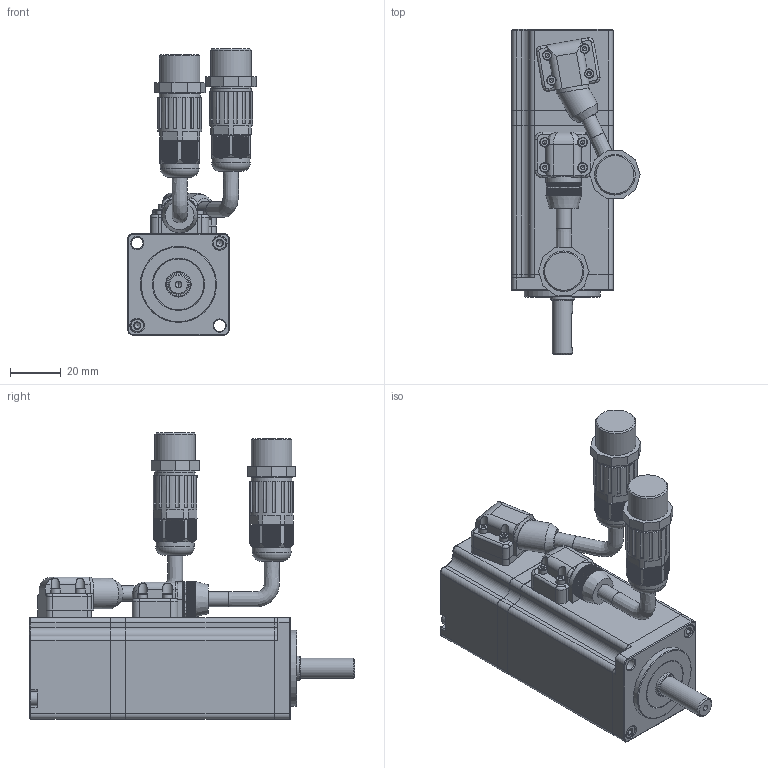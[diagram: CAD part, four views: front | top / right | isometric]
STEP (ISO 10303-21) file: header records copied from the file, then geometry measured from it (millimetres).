
FILE_DESCRIPTION(/* description */ (''),/* implementation_level */ '2;1');
FILE_NAME(/* name */ '40SY-M00330S1.stp',/* time_stamp */ '2023-10-28T15:36:43+08:00',/* author */ (''),/* organization */ (''),/* preprocessor_version */ 'ST-DEVELOPER v18.1',/* originating_system */ 'SIEMENS PLM Software NX 2000',/* authorisation */ '');
FILE_SCHEMA (('AUTOMOTIVE_DESIGN { 1 0 10303 214 3 1 1 1 }'));
Products named in the file (1): 40S1电机外形图
Bounding box: 50.7 x 128.2 x 112.82 mm (x, y, z)
Volume: 191005.3 mm3; surface area: 48489.6 mm2
Topology: 26 solids, 26 shells, 2356 faces, 6221 edges, 3950 vertices
Faces by surface type: plane 1504, cylinder 464, bspline 224, cone 113, torus 47, sphere 4
Full cylindrical faces by diameter (mm): 1.6 x4, 1.886 x8, 2 x8, 2.874 x4, 3 x4, 3.5 x2, 3.8 x8, 4.6 x2, 5.5 x4, 5.8 x2, 6 x2, 6.5 x1, 8 x1, 9.6 x1, 9.9 x1, 10 x1, 12 x1, 13 x3, 15.3 x2, 15.6 x2, 16 x2, 16.1 x2, 17 x1, 17.3 x2, 20 x2, 30 x1
Entity records: 77440 total; most frequent: CARTESIAN_POINT 21840, ORIENTED_EDGE 12064, DIRECTION 10635, EDGE_CURVE 6032, VERTEX_POINT 3919, AXIS2_PLACEMENT_3D 3622, LINE 3391, VECTOR 3391
